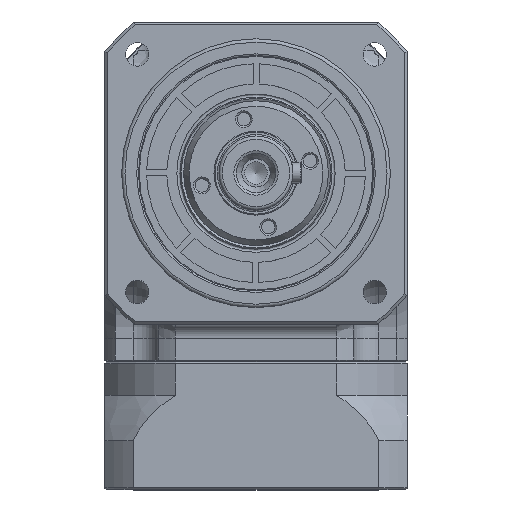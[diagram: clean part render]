
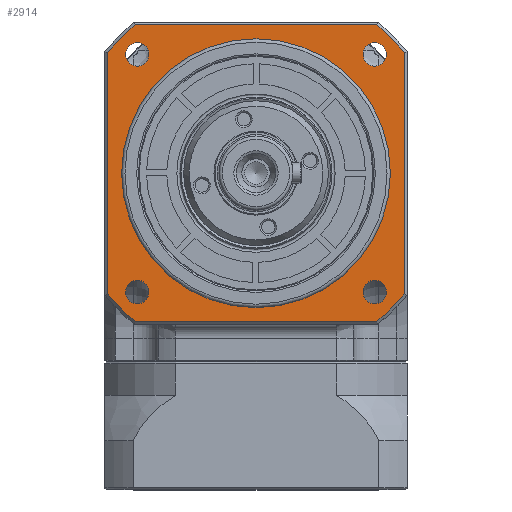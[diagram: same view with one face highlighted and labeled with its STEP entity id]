
A CAD part, top view. The second image highlights one B-rep face of the part: STEP entity #2914.
In plain terms, the highlighted planar face has unit normal (0, 0, 1).
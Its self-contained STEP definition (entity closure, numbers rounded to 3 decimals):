
#1113=PLANE('',#11930);
#1622=LINE('',#19731,#2242);
#1623=LINE('',#19732,#2243);
#1624=LINE('',#19736,#2244);
#1625=LINE('',#19737,#2245);
#2242=VECTOR('',#14461,1.);
#2243=VECTOR('',#14462,1.);
#2244=VECTOR('',#14465,1.);
#2245=VECTOR('',#14466,1.);
#2914=ADVANCED_FACE('',(#3772,#3773,#3774,#3775,#3776,#3777),#1113,.T.);
#3772=FACE_BOUND('',#4652,.T.);
#3773=FACE_BOUND('',#4653,.T.);
#3774=FACE_BOUND('',#4654,.T.);
#3775=FACE_BOUND('',#4655,.T.);
#3776=FACE_BOUND('',#4656,.T.);
#3777=FACE_BOUND('',#4657,.T.);
#4652=EDGE_LOOP('',(#6815));
#4653=EDGE_LOOP('',(#6816));
#4654=EDGE_LOOP('',(#6817));
#4655=EDGE_LOOP('',(#6818));
#4656=EDGE_LOOP('',(#6819,#6820,#6821,#6822,#6823,#6824,#6825,#6826));
#4657=EDGE_LOOP('',(#6827));
#6815=ORIENTED_EDGE('',*,*,#9940,.T.);
#6816=ORIENTED_EDGE('',*,*,#9941,.T.);
#6817=ORIENTED_EDGE('',*,*,#9942,.T.);
#6818=ORIENTED_EDGE('',*,*,#9943,.T.);
#6819=ORIENTED_EDGE('',*,*,#9870,.F.);
#6820=ORIENTED_EDGE('',*,*,#9944,.T.);
#6821=ORIENTED_EDGE('',*,*,#9872,.F.);
#6822=ORIENTED_EDGE('',*,*,#9945,.T.);
#6823=ORIENTED_EDGE('',*,*,#9946,.F.);
#6824=ORIENTED_EDGE('',*,*,#9947,.T.);
#6825=ORIENTED_EDGE('',*,*,#9866,.F.);
#6826=ORIENTED_EDGE('',*,*,#9948,.T.);
#6827=ORIENTED_EDGE('',*,*,#9939,.T.);
#8591=VERTEX_POINT('',#19518);
#8592=VERTEX_POINT('',#19520);
#8595=VERTEX_POINT('',#19533);
#8596=VERTEX_POINT('',#19535);
#8597=VERTEX_POINT('',#19542);
#8598=VERTEX_POINT('',#19543);
#8648=VERTEX_POINT('',#19721);
#8649=VERTEX_POINT('',#19724);
#8650=VERTEX_POINT('',#19726);
#8651=VERTEX_POINT('',#19728);
#8652=VERTEX_POINT('',#19730);
#8653=VERTEX_POINT('',#19733);
#8654=VERTEX_POINT('',#19735);
#9866=EDGE_CURVE('',#8591,#8592,#10826,.T.);
#9870=EDGE_CURVE('',#8595,#8596,#10828,.T.);
#9872=EDGE_CURVE('',#8597,#8598,#10829,.T.);
#9939=EDGE_CURVE('',#8648,#8648,#10858,.T.);
#9940=EDGE_CURVE('',#8649,#8649,#10859,.T.);
#9941=EDGE_CURVE('',#8650,#8650,#10860,.T.);
#9942=EDGE_CURVE('',#8651,#8651,#10861,.T.);
#9943=EDGE_CURVE('',#8652,#8652,#10862,.T.);
#9944=EDGE_CURVE('',#8595,#8598,#1622,.T.);
#9945=EDGE_CURVE('',#8597,#8653,#1623,.T.);
#9946=EDGE_CURVE('',#8654,#8653,#10863,.T.);
#9947=EDGE_CURVE('',#8654,#8592,#1624,.T.);
#9948=EDGE_CURVE('',#8591,#8596,#1625,.T.);
#10826=CIRCLE('',#11870,56.95);
#10828=CIRCLE('',#11873,56.95);
#10829=CIRCLE('',#11875,56.95);
#10858=CIRCLE('',#11923,40.);
#10859=CIRCLE('',#11925,3.5);
#10860=CIRCLE('',#11926,3.5);
#10861=CIRCLE('',#11927,3.5);
#10862=CIRCLE('',#11928,3.5);
#10863=CIRCLE('',#11929,56.95);
#11870=AXIS2_PLACEMENT_3D('',#19519,#14319,#14320);
#11873=AXIS2_PLACEMENT_3D('',#19534,#14325,#14326);
#11875=AXIS2_PLACEMENT_3D('',#19541,#14329,#14330);
#11923=AXIS2_PLACEMENT_3D('',#19720,#14449,#14450);
#11925=AXIS2_PLACEMENT_3D('',#19723,#14453,#14454);
#11926=AXIS2_PLACEMENT_3D('',#19725,#14455,#14456);
#11927=AXIS2_PLACEMENT_3D('',#19727,#14457,#14458);
#11928=AXIS2_PLACEMENT_3D('',#19729,#14459,#14460);
#11929=AXIS2_PLACEMENT_3D('',#19734,#14463,#14464);
#11930=AXIS2_PLACEMENT_3D('',#19738,#14467,#14468);
#14319=DIRECTION('',(0.,0.,-1.));
#14320=DIRECTION('',(-1.,0.,0.));
#14325=DIRECTION('',(0.,0.,-1.));
#14326=DIRECTION('',(-1.,0.,0.));
#14329=DIRECTION('',(0.,0.,-1.));
#14330=DIRECTION('',(-1.,0.,0.));
#14449=DIRECTION('',(0.,0.,-1.));
#14450=DIRECTION('',(-1.,0.,0.));
#14453=DIRECTION('',(0.,0.,-1.));
#14454=DIRECTION('',(0.,-1.,0.));
#14455=DIRECTION('',(0.,0.,-1.));
#14456=DIRECTION('',(0.,-1.,0.));
#14457=DIRECTION('',(0.,0.,-1.));
#14458=DIRECTION('',(0.,-1.,0.));
#14459=DIRECTION('',(0.,0.,-1.));
#14460=DIRECTION('',(0.,-1.,0.));
#14461=DIRECTION('',(-1.,0.,0.));
#14462=DIRECTION('',(0.,-1.,0.));
#14463=DIRECTION('',(0.,0.,-1.));
#14464=DIRECTION('',(-1.,0.,0.));
#14465=DIRECTION('',(1.,0.,0.));
#14466=DIRECTION('',(0.,1.,0.));
#14467=DIRECTION('',(0.,0.,1.));
#14468=DIRECTION('',(1.,0.,0.));
#19518=CARTESIAN_POINT('',(44.2,20.088,51.));
#19519=CARTESIAN_POINT('',(0.,56.,51.));
#19520=CARTESIAN_POINT('',(35.912,11.8,51.));
#19533=CARTESIAN_POINT('',(35.912,100.2,51.));
#19534=CARTESIAN_POINT('',(0.,56.,51.));
#19535=CARTESIAN_POINT('',(44.2,91.912,51.));
#19541=CARTESIAN_POINT('',(0.,56.,51.));
#19542=CARTESIAN_POINT('',(-44.2,91.912,51.));
#19543=CARTESIAN_POINT('',(-35.912,100.2,51.));
#19720=CARTESIAN_POINT('',(0.,56.,51.));
#19721=CARTESIAN_POINT('',(-40.,56.,51.));
#19723=CARTESIAN_POINT('',(-35.355,20.645,51.));
#19724=CARTESIAN_POINT('',(-35.355,17.145,51.));
#19725=CARTESIAN_POINT('',(-35.355,91.355,51.));
#19726=CARTESIAN_POINT('',(-35.355,87.855,51.));
#19727=CARTESIAN_POINT('',(35.355,91.355,51.));
#19728=CARTESIAN_POINT('',(35.355,87.855,51.));
#19729=CARTESIAN_POINT('',(35.355,20.645,51.));
#19730=CARTESIAN_POINT('',(35.355,17.145,51.));
#19731=CARTESIAN_POINT('',(-34.904,100.2,51.));
#19732=CARTESIAN_POINT('',(-44.2,21.096,51.));
#19733=CARTESIAN_POINT('',(-44.2,20.088,51.));
#19734=CARTESIAN_POINT('',(0.,56.,51.));
#19735=CARTESIAN_POINT('',(-35.912,11.8,51.));
#19736=CARTESIAN_POINT('',(34.904,11.8,51.));
#19737=CARTESIAN_POINT('',(44.2,90.904,51.));
#19738=CARTESIAN_POINT('',(0.,56.,51.));
